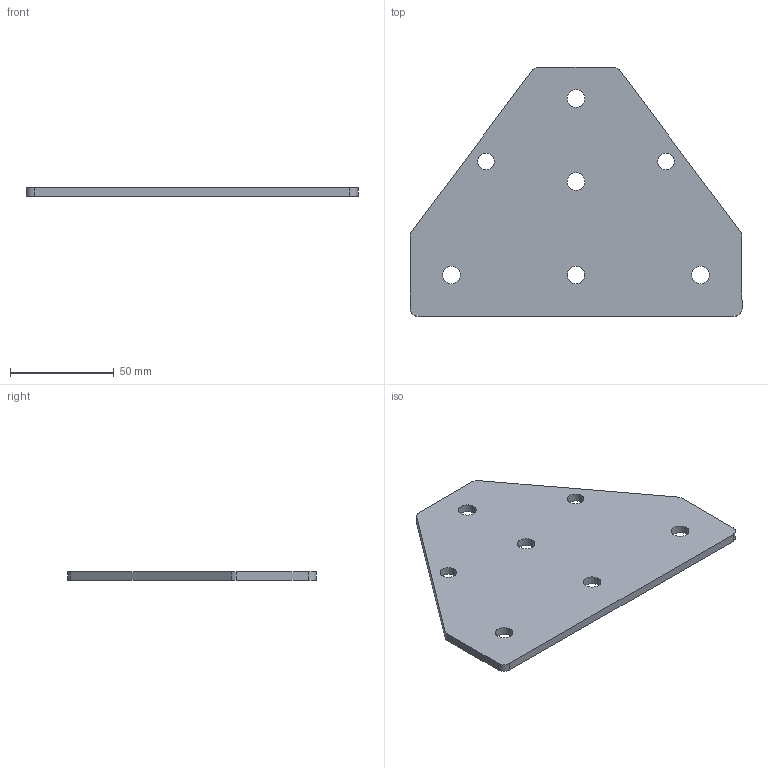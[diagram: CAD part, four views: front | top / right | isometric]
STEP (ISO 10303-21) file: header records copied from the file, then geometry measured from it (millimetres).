
FILE_DESCRIPTION(('STEP AP203'), '1');
FILE_NAME('À00804.34545 _ Ò-ñîåäèíèòåëü', '', ('UNSPECIFIED'), ('UNSPECIFIED'), 'C3D Converter', 'C3D Toolkit', '');
FILE_SCHEMA(('CONFIG_CONTROL_DESIGN'));
Length unit declared in the file: millimetre
Products named in the file (1): А00804.34545
Bounding box: 160 x 120 x 4 mm (x, y, z)
Volume: 56029.4 mm3; surface area: 30653 mm2
Topology: 1 solids, 1 shells, 21 faces, 57 edges, 38 vertices
Faces by surface type: cylinder 13, plane 8
Full cylindrical faces by diameter (mm): 8 x2, 8.5 x5
Entity records: 873 total; most frequent: DIRECTION 120, CARTESIAN_POINT 110, ORIENTED_EDGE 100, EDGE_CURVE 50, AXIS2_PLACEMENT_3D 48, EDGE_LOOP 42, VERTEX_POINT 38, FACE_BOUND 28
